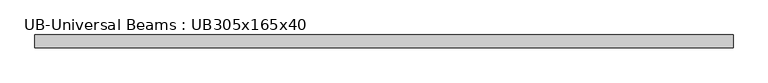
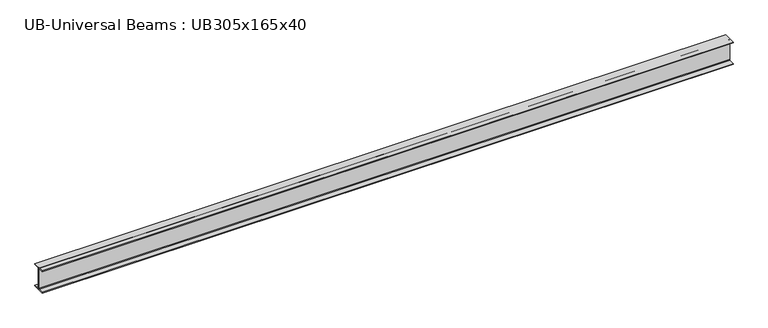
"""IFC4 building model written with IfcOpenShell, lengths in millimetres: beam geometry, UB-Universal Beams : UB305x165x40."""

from ifc_helpers import new_model, si_unit, point, frame, frame_2d, origin, place, context, project, spatial, polyline, circle_curve, trimmed, segment, composite_curve, outline, extrude, source, transform, mapped, element, save


def ub_universal_beams_ub305x165x40_c3492db1(model_context):
    return source(origin(), model_context, "Body", "SweptSolid", [
        extrude(outline(composite_curve([segment(polyline([(82.5, -141.5), (82.5, -151.7), (-82.5, -151.7), (-82.5, -141.5), (-11.9, -141.5)]), True, "CONTINUOUS"), segment(trimmed(circle_curve(frame_2d((-11.9, -132.6)), 8.9), [point((-11.9, -141.5))], [point((-3.0, -132.6))], True, "CARTESIAN"), True, "CONTINUOUS"), segment(polyline([(-3.0, -132.6), (-3.0, 132.6)]), True, "CONTINUOUS"), segment(trimmed(circle_curve(frame_2d((-11.9, 132.6)), 8.9), [point((-3.0, 132.6))], [point((-11.9, 141.5))], True, "CARTESIAN"), True, "CONTINUOUS"), segment(polyline([(-11.9, 141.5), (-82.5, 141.5), (-82.5, 151.7), (82.5, 151.7), (82.5, 141.5), (11.9, 141.5)]), True, "CONTINUOUS"), segment(trimmed(circle_curve(frame_2d((11.9, 132.6)), 8.9), [point((11.9, 141.5))], [point((3.0, 132.6))], True, "CARTESIAN"), True, "CONTINUOUS"), segment(polyline([(3.0, 132.6), (3.0, -132.6)]), True, "CONTINUOUS"), segment(trimmed(circle_curve(frame_2d((11.9, -132.6)), 8.9), [point((3.0, -132.6))], [point((11.9, -141.5))], True, "CARTESIAN"), True, "CONTINUOUS"), segment(polyline([(11.9, -141.5), (82.5, -141.5)]), True, "CONTINUOUS")], self_intersect=False)), frame((-4508.2, 0.0, 0.0), z_axis=(1.0, 0.0, 0.0), x_axis=(0.0, 1.0, 0.0)), (0.0, 0.0, 1.0), 8981.7),
    ])


if __name__ == "__main__":
    model = new_model("IFC4")
    model_context = context("Model", 3, world=origin())
    ifc_project = project(units=[si_unit("LENGTHUNIT", "METRE", prefix="MILLI")], contexts=[model_context])
    site = spatial("IfcSite", under=ifc_project)
    building = spatial("IfcBuilding", under=site)
    placement = place(None, origin())
    ub_universal_beams_ub305x165x40_shape = ub_universal_beams_ub305x165x40_c3492db1(model_context)
    element("IfcBeam", 1, ObjectType="UB-Universal Beams : UB305x165x40", at=placement, inside=building, context=model_context, shape_type="MappedRepresentation", body=[
        mapped(ub_universal_beams_ub305x165x40_shape, transform((0.0, 0.0, 0.0), x_axis=(1.0, 0.0, 0.0), y_axis=(0.0, 1.0, 0.0), z_axis=(0.0, 0.0, 1.0))),
    ])
    save(model, "model.ifc")
